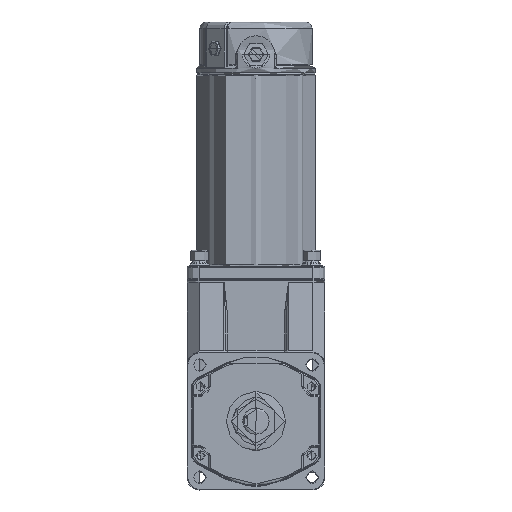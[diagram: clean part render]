
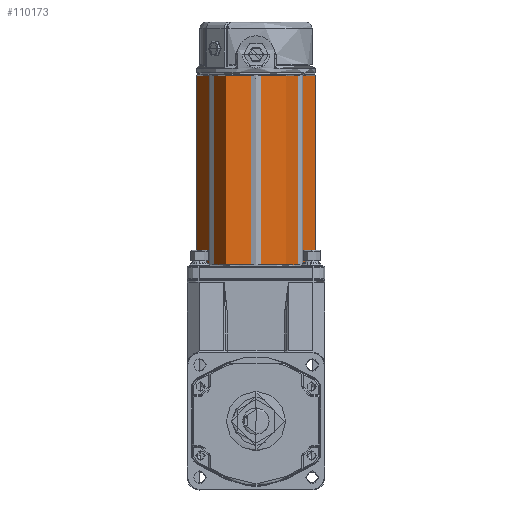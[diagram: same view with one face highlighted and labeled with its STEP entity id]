
A CAD part, front view. The second image highlights one B-rep face of the part: STEP entity #110173.
In plain terms, the highlighted cylindrical face has radius 45 mm (diameter 90 mm), a partial arc.
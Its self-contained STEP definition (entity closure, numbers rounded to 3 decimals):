
#838 = CARTESIAN_POINT ( 'NONE',  ( 0., 1., 45. ) ) ;
#1121 = CARTESIAN_POINT ( 'NONE',  ( 0., 0., 0. ) ) ;
#12152 = DIRECTION ( 'NONE',  ( 0., 1., 0. ) ) ;
#22686 = DIRECTION ( 'NONE',  ( 0., 0., 1. ) ) ;
#25461 = CARTESIAN_POINT ( 'NONE',  ( 0., 0., 45. ) ) ;
#25507 = DIRECTION ( 'NONE',  ( 0., 0., 1. ) ) ;
#27232 = EDGE_LOOP ( 'NONE', ( #62964, #76830, #123426, #34090 ) ) ;
#34090 = ORIENTED_EDGE ( 'NONE', *, *, #127310, .F. ) ;
#40831 = DIRECTION ( 'NONE',  ( 0., 0., 1. ) ) ;
#40878 = CARTESIAN_POINT ( 'NONE',  ( 0., 0., -45. ) ) ;
#41765 = DIRECTION ( 'NONE',  ( 0., 1., 0. ) ) ;
#48683 = EDGE_CURVE ( 'NONE', #76505, #118139, #88193, .T. ) ;
#51322 = VERTEX_POINT ( 'NONE', #52054 ) ;
#52054 = CARTESIAN_POINT ( 'NONE',  ( 0., 1., -45. ) ) ;
#62964 = ORIENTED_EDGE ( 'NONE', *, *, #82341, .T. ) ;
#67966 = DIRECTION ( 'NONE',  ( 0., 1., 0. ) ) ;
#68194 = AXIS2_PLACEMENT_3D ( 'NONE', #78479, #67966, #25507 ) ;
#76505 = VERTEX_POINT ( 'NONE', #94857 ) ;
#76830 = ORIENTED_EDGE ( 'NONE', *, *, #86450, .T. ) ;
#78479 = CARTESIAN_POINT ( 'NONE',  ( 0., 1., 0. ) ) ;
#82341 = EDGE_CURVE ( 'NONE', #128487, #51322, #94594, .T. ) ;
#83267 = VECTOR ( 'NONE', #41765, 1000. ) ;
#86450 = EDGE_CURVE ( 'NONE', #51322, #76505, #109301, .T. ) ;
#86694 = DIRECTION ( 'NONE',  ( 0., 1., 0. ) ) ;
#88103 = AXIS2_PLACEMENT_3D ( 'NONE', #1121, #12152, #22686 ) ;
#88193 = CIRCLE ( 'NONE', #90383, 45. ) ;
#88789 = CARTESIAN_POINT ( 'NONE',  ( 0., 144., 45. ) ) ;
#90383 = AXIS2_PLACEMENT_3D ( 'NONE', #135406, #102057, #40831 ) ;
#94594 = CIRCLE ( 'NONE', #68194, 45. ) ;
#94857 = CARTESIAN_POINT ( 'NONE',  ( 0., 144., -45. ) ) ;
#102057 = DIRECTION ( 'NONE',  ( 0., -1., 0. ) ) ;
#103805 = VECTOR ( 'NONE', #86694, 1000. ) ;
#109301 = LINE ( 'NONE', #40878, #83267 ) ;
#110173 = ADVANCED_FACE ( 'NONE', ( #118154 ), #124701, .T. ) ;
#113672 = LINE ( 'NONE', #25461, #103805 ) ;
#118139 = VERTEX_POINT ( 'NONE', #88789 ) ;
#118154 = FACE_OUTER_BOUND ( 'NONE', #27232, .T. ) ;
#123426 = ORIENTED_EDGE ( 'NONE', *, *, #48683, .T. ) ;
#124701 = CYLINDRICAL_SURFACE ( 'NONE', #88103, 45. ) ;
#127310 = EDGE_CURVE ( 'NONE', #128487, #118139, #113672, .T. ) ;
#128487 = VERTEX_POINT ( 'NONE', #838 ) ;
#135406 = CARTESIAN_POINT ( 'NONE',  ( 0., 144., 0. ) ) ;
